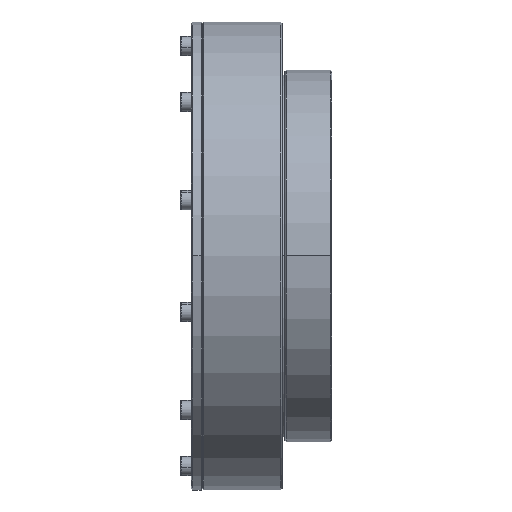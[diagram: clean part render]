
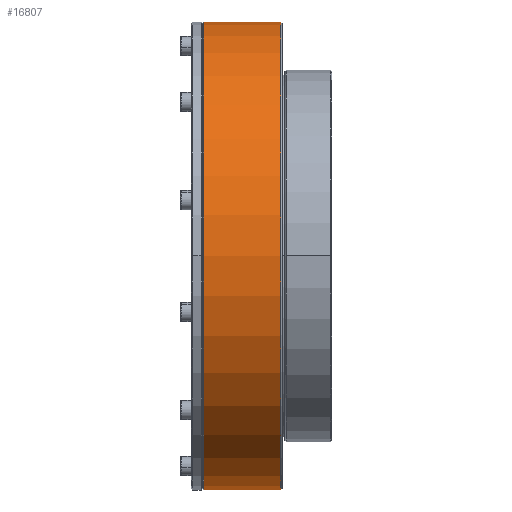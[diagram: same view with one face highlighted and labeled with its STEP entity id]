
A CAD part, top view. The second image highlights one B-rep face of the part: STEP entity #16807.
In plain terms, the highlighted cylindrical face has radius 85 mm (diameter 170 mm), a partial arc.
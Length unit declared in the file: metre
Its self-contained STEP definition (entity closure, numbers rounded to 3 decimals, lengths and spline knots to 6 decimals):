
#1323 = DIRECTION ( 'NONE',  ( 0., 1., 0. ) ) ;
#1783 = CARTESIAN_POINT ( 'NONE',  ( 0.028066, -0.085, 0. ) ) ;
#3885 = DIRECTION ( 'NONE',  ( -1., 0., 0. ) ) ;
#4196 = VERTEX_POINT ( 'NONE', #14056 ) ;
#4975 = DIRECTION ( 'NONE',  ( 1., 0., 0. ) ) ;
#5154 = DIRECTION ( 'NONE',  ( 0., 1., 0. ) ) ;
#6503 = CARTESIAN_POINT ( 'NONE',  ( 0.0051, 0., 0. ) ) ;
#7018 = CARTESIAN_POINT ( 'NONE',  ( 0.0051, -0.085, 0. ) ) ;
#8957 = VERTEX_POINT ( 'NONE', #7018 ) ;
#9312 = CARTESIAN_POINT ( 'NONE',  ( 0.028066, 0., 0. ) ) ;
#10023 = VERTEX_POINT ( 'NONE', #25970 ) ;
#10096 = VERTEX_POINT ( 'NONE', #28929 ) ;
#10627 = VECTOR ( 'NONE', #13087, 1. ) ;
#11143 = CARTESIAN_POINT ( 'NONE',  ( 0.028066, 0.085, 0. ) ) ;
#11162 = AXIS2_PLACEMENT_3D ( 'NONE', #9312, #32092, #34668 ) ;
#12106 = FACE_OUTER_BOUND ( 'NONE', #27667, .T. ) ;
#12489 = CYLINDRICAL_SURFACE ( 'NONE', #11162, 0.085 ) ;
#13087 = DIRECTION ( 'NONE',  ( 1., 0., 0. ) ) ;
#13691 = CARTESIAN_POINT ( 'NONE',  ( -0.0229, 0., 0. ) ) ;
#14056 = CARTESIAN_POINT ( 'NONE',  ( -0.0229, -0.085, 0. ) ) ;
#14361 = EDGE_CURVE ( 'NONE', #8957, #10096, #34268, .T. ) ;
#15358 = AXIS2_PLACEMENT_3D ( 'NONE', #6503, #3885, #1323 ) ;
#16807 = ADVANCED_FACE ( 'NONE', ( #12106 ), #12489, .T. ) ;
#21749 = AXIS2_PLACEMENT_3D ( 'NONE', #13691, #4975, #5154 ) ;
#22295 = EDGE_CURVE ( 'NONE', #10023, #4196, #33591, .T. ) ;
#25008 = LINE ( 'NONE', #11143, #30939 ) ;
#25845 = EDGE_CURVE ( 'NONE', #4196, #8957, #27126, .T. ) ;
#25970 = CARTESIAN_POINT ( 'NONE',  ( -0.0229, 0.085, 0. ) ) ;
#26609 = ORIENTED_EDGE ( 'NONE', *, *, #22295, .T. ) ;
#27126 = LINE ( 'NONE', #1783, #10627 ) ;
#27667 = EDGE_LOOP ( 'NONE', ( #26609, #34906, #30229, #33522 ) ) ;
#28929 = CARTESIAN_POINT ( 'NONE',  ( 0.0051, 0.085, 0. ) ) ;
#30229 = ORIENTED_EDGE ( 'NONE', *, *, #14361, .T. ) ;
#30816 = EDGE_CURVE ( 'NONE', #10023, #10096, #25008, .T. ) ;
#30939 = VECTOR ( 'NONE', #36328, 1. ) ;
#32092 = DIRECTION ( 'NONE',  ( 1., 0., 0. ) ) ;
#33522 = ORIENTED_EDGE ( 'NONE', *, *, #30816, .F. ) ;
#33591 = CIRCLE ( 'NONE', #21749, 0.085 ) ;
#34268 = CIRCLE ( 'NONE', #15358, 0.085 ) ;
#34668 = DIRECTION ( 'NONE',  ( 0., 1., 0. ) ) ;
#34906 = ORIENTED_EDGE ( 'NONE', *, *, #25845, .T. ) ;
#36328 = DIRECTION ( 'NONE',  ( 1., 0., 0. ) ) ;
